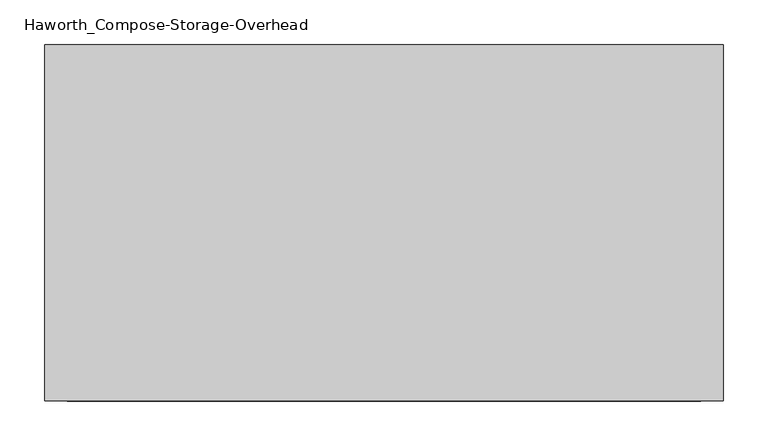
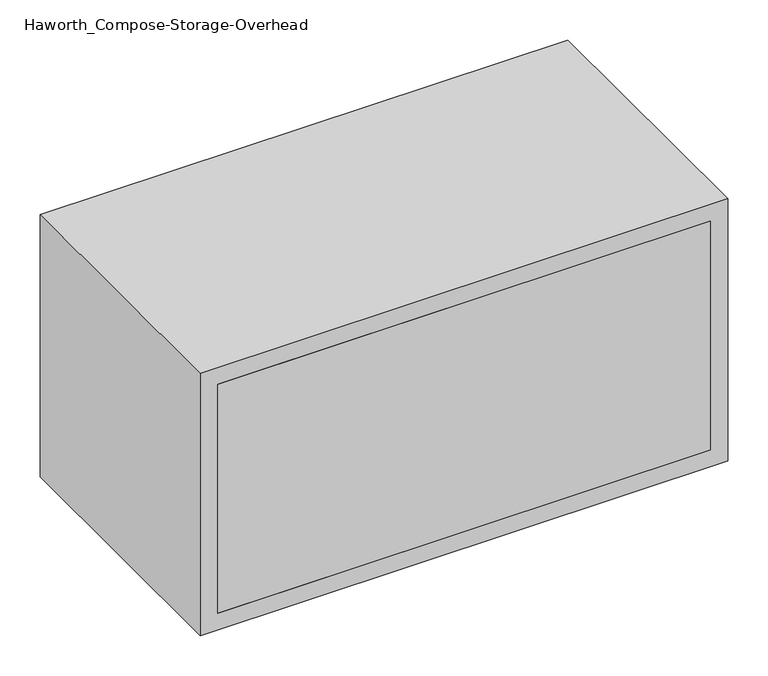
"""IFC4 building model written with IfcOpenShell, lengths in millimetres: furniture geometry."""

from ifc_helpers import new_model, si_unit, frame, origin, place, context, project, spatial, polyline, outline, extrude, source, transform, mapped, element, save


def haworth_compose_storage_overhead_1ba29520(model_context):
    return source(origin(), model_context, "Body", "SweptSolid", [
        extrude(outline(polyline([(520.7, 6.35), (520.7, 0.0), (-190.5, 0.0), (-190.5, 6.35), (520.7, 6.35)])), frame((0.0, 0.0, 762.0), z_axis=(0.0, 0.0, 1.0), x_axis=(1.0, 0.0, 0.0)), (0.0, 0.0, 1.0), 349.25),
        extrude(outline(polyline([(736.6, 546.1), (1136.65, 546.1), (1136.65, -215.9), (736.6, -215.9), (736.6, 546.1)]), holes=[polyline([(1111.25, 520.7), (762.0, 520.7), (762.0, -190.5), (1111.25, -190.5), (1111.25, 520.7)])]), frame((0.0, 0.0, 0.0), z_axis=(0.0, 1.0, 0.0), x_axis=(0.0, 0.0, 1.0)), (0.0, 0.0, 1.0), 400.05),
    ])


if __name__ == "__main__":
    model = new_model("IFC4")
    model_context = context("Model", 3, world=origin())
    ifc_project = project(units=[si_unit("LENGTHUNIT", "METRE", prefix="MILLI")], contexts=[model_context])
    site = spatial("IfcSite", under=ifc_project)
    building = spatial("IfcBuilding", under=site)
    placement = place(None, origin())
    haworth_compose_storage_overhead_shape = haworth_compose_storage_overhead_1ba29520(model_context)
    element("IfcFurniture", 1, ObjectType="Haworth_Compose-Storage-Overhead : 30\" x 16\" x 16\" - No Door", at=placement, inside=building, context=model_context, shape_type="MappedRepresentation", body=[
        mapped(haworth_compose_storage_overhead_shape, transform((0.0, 0.0, 0.0), x_axis=(1.0, 0.0, 0.0), y_axis=(0.0, 1.0, 0.0), z_axis=(0.0, 0.0, 1.0))),
    ])
    save(model, "model.ifc")
